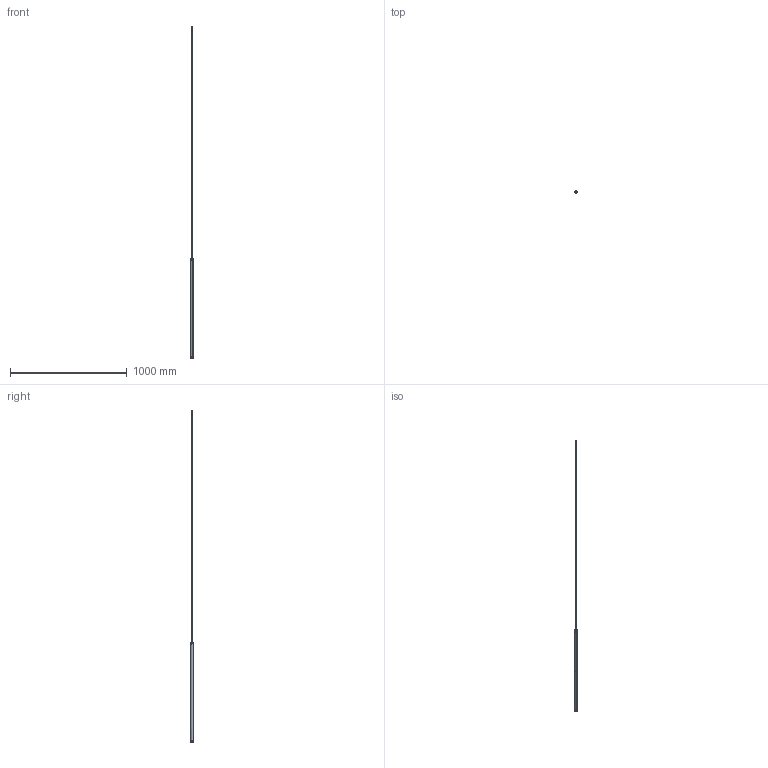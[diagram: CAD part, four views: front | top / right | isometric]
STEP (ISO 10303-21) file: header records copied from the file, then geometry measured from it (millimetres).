
FILE_DESCRIPTION(/* description */ (''),/* implementation_level */ '2;1');
FILE_NAME(/* name */ 'To-be M025__.085',/* time_stamp */ '2025-05-27T16:45:39+02:00',/* author */ (''),/* organization */ (''),/* preprocessor_version */ 'ST-DEVELOPER v16.5',/* originating_system */ '',/* authorisation */ '');
FILE_SCHEMA (('AUTOMOTIVE_DESIGN'));
Length unit declared in the file: millimetre
Products named in the file (5): Document; 3400.0080000.00 (cavo FEP+PVC 2x0,75 trasparente)_3401.0082000.00; 3300.0032000.00 (tubo ALL D 22mm sp 1,5)_3305.0032085.00; 3300.0034000.00 (testata di chiusura ALL Ø 20mm H 9mm)_3306.00340
02.00; 3100.0005000.00 (schermo circolare PC sp 0,5)_3104.0005001.00
Assembly tree (4 placements, depth 2):
  Document
    3400.0080000.00 (cavo FEP+PVC 2x0,75 trasparente)_3401.0082000.00
    3300.0032000.00 (tubo ALL D 22mm sp 1,5)_3305.0032085.00
    3300.0034000.00 (testata di chiusura ALL Ø 20mm H 9mm)_3306.00340
02.00
    3100.0005000.00 (schermo circolare PC sp 0,5)_3104.0005001.00
Bounding box: 21.99 x 22 x 2841 mm (x, y, z)
Volume: 121082 mm3; surface area: 180301 mm2
Topology: 6 solids, 6 shells, 114 faces, 274 edges, 172 vertices
Faces by surface type: bspline 97, plane 17
Entity records: 7059 total; most frequent: CARTESIAN_POINT 5403, ORIENTED_EDGE 540, EDGE_CURVE 270, VERTEX_POINT 172, EDGE_LOOP 126, ADVANCED_FACE 114, FACE_OUTER_BOUND 114, B_SPLINE_CURVE_WITH_KNOTS 106
